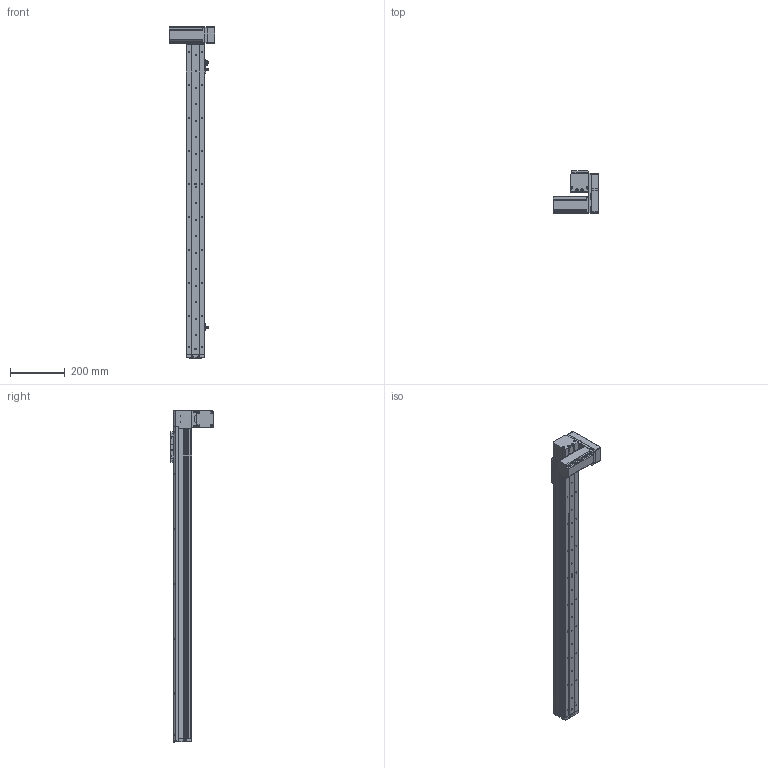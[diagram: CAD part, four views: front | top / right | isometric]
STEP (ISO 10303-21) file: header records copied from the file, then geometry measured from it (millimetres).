
FILE_DESCRIPTION (( 'STEP AP214' ), '1' );
FILE_NAME ('KSD68BS-S950-MLD-CR.STEP', '2019-11-07T05:40:17', ( '微软用户' ), ( '微软中国' ), 'SwSTEP 2.0', 'SolidWorks 2014', '' );
FILE_SCHEMA (( 'AUTOMOTIVE_DESIGN' ));
Length unit declared in the file: millimetre
Products named in the file (14): 68遵裔啣揤啣1; 68宽单导轨全封闭丝杆传动安装板1防护罩; KSD68BS 950行程侧板全封闭; 68宽单导轨全封闭同步带端板; 68单导轨全封闭同步带电机座左; 68单导轨全封闭同步带安装板; 悵誘欶奻狟殏; 68宽马达安装板连板上折同步带; 感应片68宽全封闭; U倰嫖萇EEㄜSX672; 台达ECMA－C20604AS伺服电机（400W); KSD68BS 950行程底板全封闭; KSD68BS 950行程盖板全封闭; KSD68BS-S950-MLD-CR
Assembly tree (17 placements, depth 2):
  KSD68BS-S950-MLD-CR
    KSD68BS 950行程底板全封闭
    台达ECMA－C20604AS伺服电机（400W)
    U倰嫖萇EEㄜSX672  x3
    感应片68宽全封闭
    68宽马达安装板连板上折同步带
    悵誘欶奻狟殏
    68单导轨全封闭同步带安装板
    68单导轨全封闭同步带电机座左
    68宽单导轨全封闭同步带端板
    KSD68BS 950行程侧板全封闭  x2
    68宽单导轨全封闭丝杆传动安装板1防护罩
    68遵裔啣揤啣1  x2
    KSD68BS 950行程盖板全封闭
Bounding box: 167.2 x 155.5 x 1208.1 mm (x, y, z)
Volume: 2468445 mm3; surface area: 940764 mm2
Topology: 18 solids, 18 shells, 1523 faces, 4333 edges, 2770 vertices
Faces by surface type: cylinder 726, plane 629, cone 168
Entity records: 48367 total; most frequent: CARTESIAN_POINT 8345, DIRECTION 7232, ORIENTED_EDGE 6918, EDGE_CURVE 3459, AXIS2_PLACEMENT_3D 2613, VERTEX_POINT 2268, VECTOR 2006, LINE 2006
